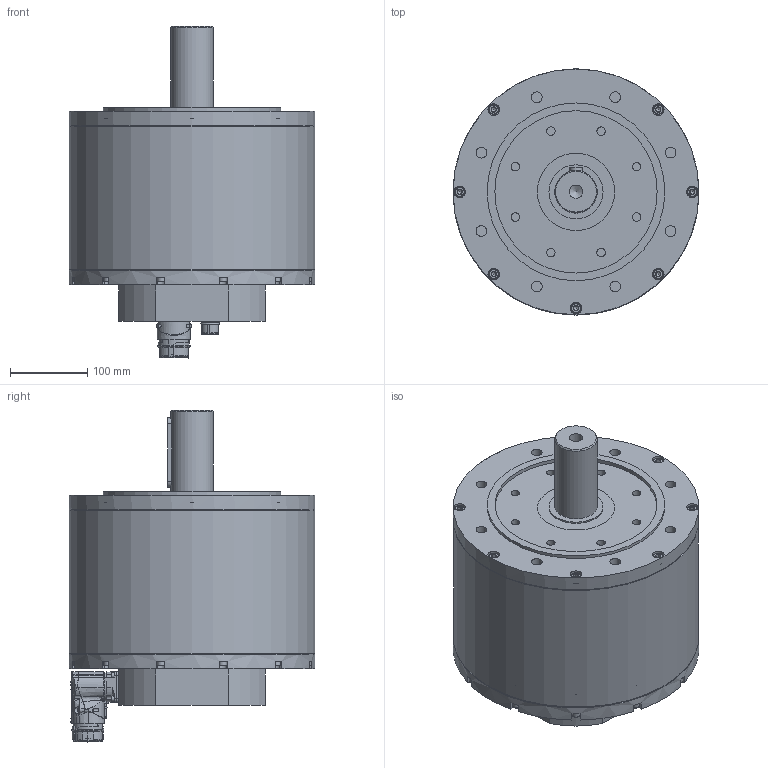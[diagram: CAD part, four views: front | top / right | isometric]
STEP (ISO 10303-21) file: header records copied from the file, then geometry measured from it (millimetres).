
FILE_DESCRIPTION(/* description */ (''),/* implementation_level */ '2;1');
FILE_NAME(/* name */ 'C:\Users\Public\Documents\Autodesk\Inventor LT 2014\Workspace\Motori Sito WEB\TG_8\STEP_DSM5_8x\DSM5_81_x099.stp',/* time_stamp */ '2021-03-31T14:32:03+02:00',/* author */ ('marcor'),/* organization */ (''),/* preprocessor_version */ 'ST-DEVELOPER v15.2',/* originating_system */ 'Autodesk Inventor LT ',/* authorisation */ '');
FILE_SCHEMA (('AUTOMOTIVE_DESIGN { 1 0 10303 214 3 1 1 }'));
Products named in the file (1): DSM5_81_x099
Bounding box: 318 x 318 x 429.5 mm (x, y, z)
Volume: 19740225.3 mm3; surface area: 923027.5 mm2
Topology: 28 solids, 49 shells, 2004 faces, 5142 edges, 3363 vertices
Faces by surface type: plane 881, cone 450, cylinder 413, bspline 135, torus 108, sphere 17
Full cylindrical faces by diameter (mm): 1.2 x17, 2 x2, 2.013 x4, 2.224 x4, 2.5 x4, 2.88 x4, 3.242 x4, 3.26 x4, 3.6 x5, 4 x5, 4.5 x1, 4.8 x4, 4.917 x16, 5.4 x1, 5.5 x1, 5.9 x1, 6 x16, 6.5 x16, 6.647 x8, 7 x4, 8 x10, 8.5 x1, 9 x7, 10 x16, 10.106 x2, 11 x12, 13 x7, 13.835 x8, 15 x7, 15.2 x1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
Entity records: 65562 total; most frequent: CARTESIAN_POINT 19430, ORIENTED_EDGE 8928, DIRECTION 8774, EDGE_CURVE 4462, AXIS2_PLACEMENT_3D 3492, VERTEX_POINT 3179, EDGE_LOOP 2731, ADVANCED_FACE 2004
